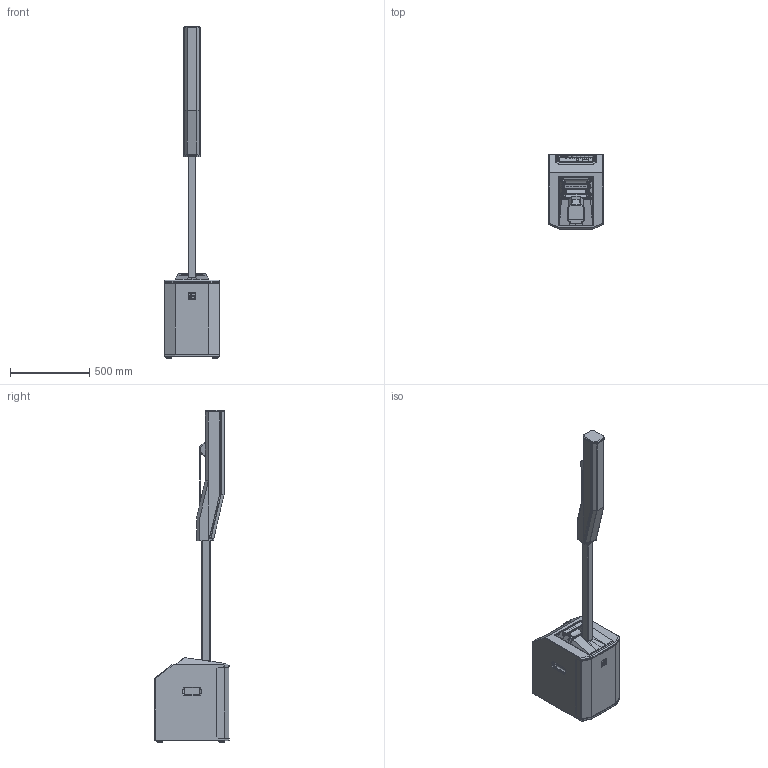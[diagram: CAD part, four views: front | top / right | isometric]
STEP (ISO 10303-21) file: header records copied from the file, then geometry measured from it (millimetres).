
FILE_DESCRIPTION (( 'STEP AP214' ), '1' );
FILE_NAME ('EVOLVE 50M 3D CAD.STEP', '2022-07-27T16:06:37', ( '' ), ( '' ), 'SwSTEP 2.0', 'SolidWorks 2021', '' );
FILE_SCHEMA (( 'AUTOMOTIVE_DESIGN' ));
Length unit declared in the file: millimetre
Products named in the file (24): Evolve 50M Sub Cover Assembly; Evolve 50M Pole Assembly; Evolve 50M Sub Top Cover; Evolve 50M Pole; Evolve 50M Bottom Cover; Evolve 50M Amplifier; Evolve 50M Subwoofer Cabinet Assembly; Evolve 50M Subwoofer Cabinet; Evolve 50M Rubber Foot; Evolve 50M Rear Enclosure; Evolve 50M Subwoofer Grille; Evolve 50M Column Speaker; Evolve 50M Pole Cap; Evolve 50M Amp Panel; Evolve 50M Grille; Evolve 50M Sub Cabinet Handle Box; Evolve 50M Sub Handle Cover; Evolve 50M Subwoofer Grille Assembly; Evolve 50M EV Logo; Evolve 50M Sub Handle; EVOLVE 50M 3D CAD; Evolve 50M Subwoofer; Evolve 50M Top Cover; Evolve 50M Column Handle
Assembly tree (28 placements, depth 4):
  EVOLVE 50M 3D CAD
    Evolve 50M Subwoofer
      Evolve 50M Subwoofer Cabinet Assembly
        Evolve 50M Subwoofer Cabinet
        Evolve 50M Sub Cabinet Handle Box  x2
      Evolve 50M Subwoofer Grille Assembly
        Evolve 50M Subwoofer Grille
        Evolve 50M EV Logo
      Evolve 50M Sub Cover Assembly
        Evolve 50M Sub Top Cover
        Evolve 50M Sub Handle Cover
        Evolve 50M Sub Handle
      Evolve 50M Amplifier
        Evolve 50M Amp Panel
      Evolve 50M Rubber Foot  x4
    Evolve 50M Pole Assembly
      Evolve 50M Pole
      Evolve 50M Pole Cap  x2
    Evolve 50M Column Speaker
      Evolve 50M Rear Enclosure
      Evolve 50M Column Handle
      Evolve 50M Bottom Cover
      Evolve 50M Top Cover
      Evolve 50M Grille
Bounding box: 344 x 470 x 2097.6 mm (x, y, z)
Volume: 27820969.1 mm3; surface area: 3520515.5 mm2
Topology: 21 solids, 21 shells, 1685 faces, 4292 edges, 2698 vertices
Faces by surface type: plane 1055, cylinder 323, bspline 158, cone 127, torus 20, sphere 2
Entity records: 63867 total; most frequent: CARTESIAN_POINT 25145, ORIENTED_EDGE 7914, DIRECTION 6204, EDGE_CURVE 3957, VERTEX_POINT 2506, LINE 2410, VECTOR 2410, AXIS2_PLACEMENT_3D 1897
